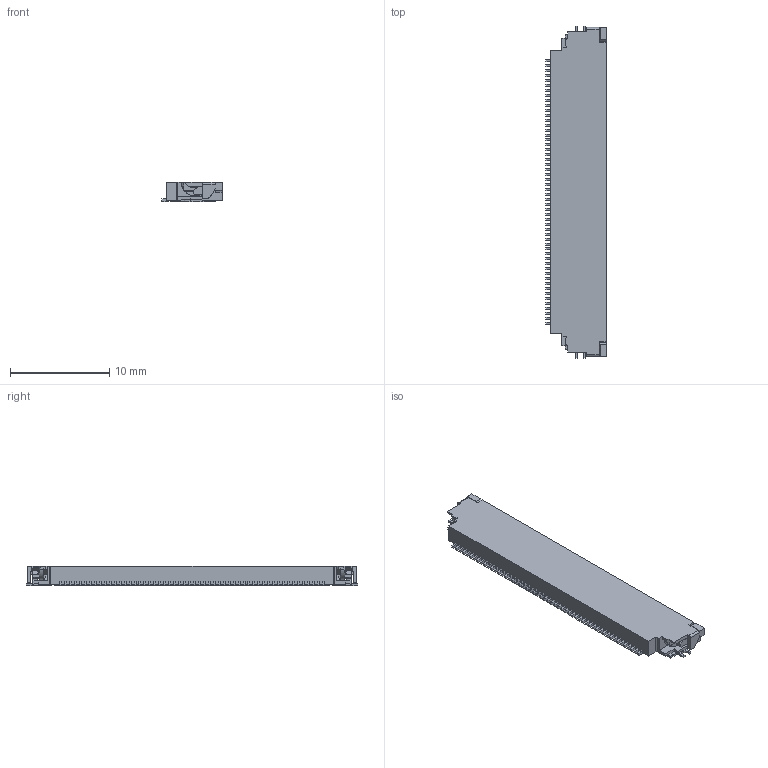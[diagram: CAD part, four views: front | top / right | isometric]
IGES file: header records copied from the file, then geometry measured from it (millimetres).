
Start section: SolidWorks IGES file using analytic representation for surfaces
Global section: file name: N:\Kamikawa_Hisako\2022_後期_KK活動\6240_OK\6240_接点\006240054005.IGS; native system: SolidWorks 2021; preprocessor: SolidWorks 2021; author: HISAKO.KAMIKAWA.FJ; date: 230316.152056; units: millimetre
Bounding box: 6.1 x 33.5 x 2 mm (x, y, z)
Surface area: 786.7 mm2 (no closed solid volume)
Topology: 0 solids, 0 shells, 748 faces, 4706 edges, 4704 vertices
Faces by surface type: bspline 696, revolution 52
